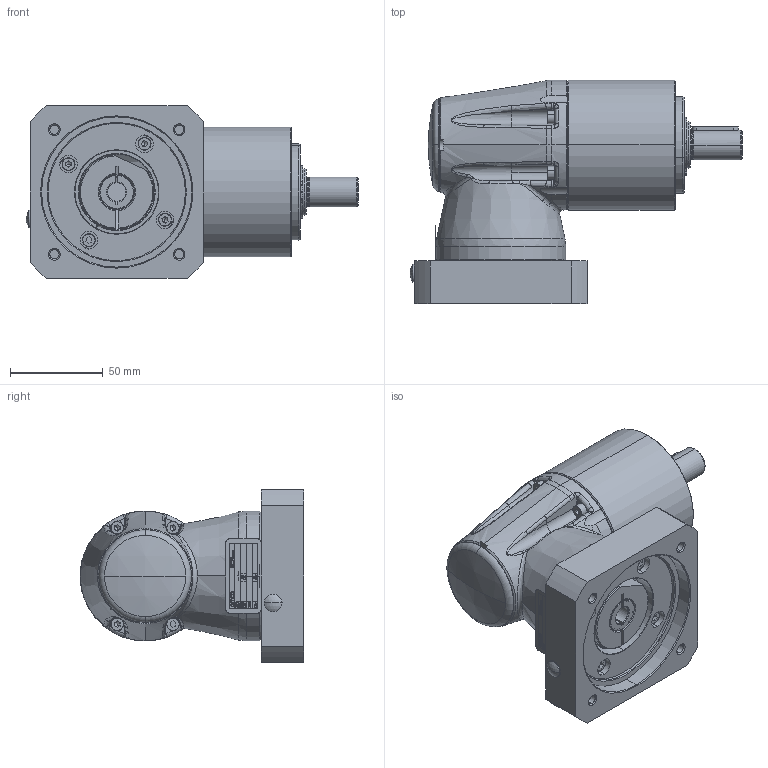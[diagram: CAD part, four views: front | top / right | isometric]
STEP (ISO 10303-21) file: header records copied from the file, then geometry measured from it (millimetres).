
FILE_DESCRIPTION (( 'STEP AP214' ), '1' );
FILE_NAME ('RL-010-0RR-FFF-MMM-S-LL-XXX-BXX-0000.STEP', '2019-10-30T15:04:20', ( '' ), ( '' ), 'SwSTEP 2.0', 'SolidWorks 2019', '' );
FILE_SCHEMA (( 'AUTOMOTIVE_DESIGN' ));
Length unit declared in the file: millimetre
Products named in the file (1): RL-010-0RR-FFF-MMM-S-LL-XXX-BXX-0000
Bounding box: 178.89 x 120.5 x 93 mm (x, y, z)
Surface area: 82308.9 mm2 (no closed solid volume)
Topology: 0 solids, 78 shells, 520 faces, 2501 edges, 2047 vertices
Faces by surface type: plane 180, cylinder 121, cone 87, bspline 68, torus 60, sphere 4
Entity records: 40814 total; most frequent: CARTESIAN_POINT 17062, ORIENTED_EDGE 3408, DIRECTION 3100, EDGE_CURVE 2489, VERTEX_POINT 2047, VECTOR 1100, LINE 1100, AXIS2_PLACEMENT_3D 1000
